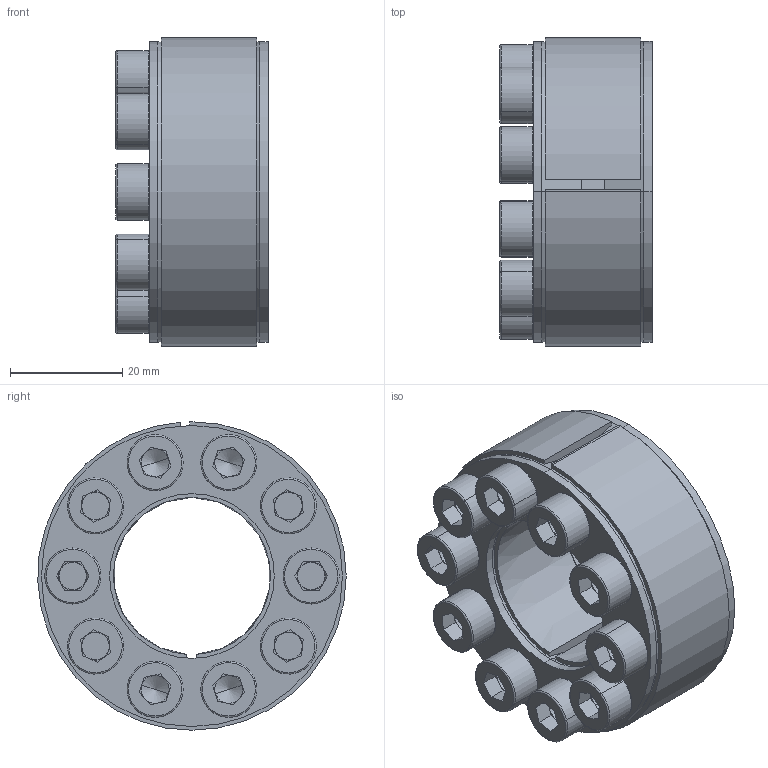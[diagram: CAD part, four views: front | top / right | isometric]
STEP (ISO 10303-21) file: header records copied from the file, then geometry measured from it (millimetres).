
FILE_DESCRIPTION (( 'STEP AP203' ), '1' );
FILE_NAME ('D1-28-55 Assy.STEP', '2017-10-11T03:17:47', ( 'MYCOM' ), ( '' ), 'SwSTEP 2.0', 'SolidWorks 2015', '' );
FILE_SCHEMA (( 'CONFIG_CONTROL_DESIGN' ));
Length unit declared in the file: millimetre
Products named in the file (1): D1-28-55 Assy
Bounding box: 27.14 x 54.98 x 55 mm (x, y, z)
Surface area: 17144.1 mm2 (no closed solid volume)
Topology: 0 solids, 24 shells, 295 faces, 717 edges, 438 vertices
Faces by surface type: plane 146, cylinder 71, torus 40, cone 38
Entity records: 8612 total; most frequent: DIRECTION 1629, CARTESIAN_POINT 1494, ORIENTED_EDGE 1290, EDGE_CURVE 709, AXIS2_PLACEMENT_3D 634, VERTEX_POINT 438, VECTOR 361, LINE 361
